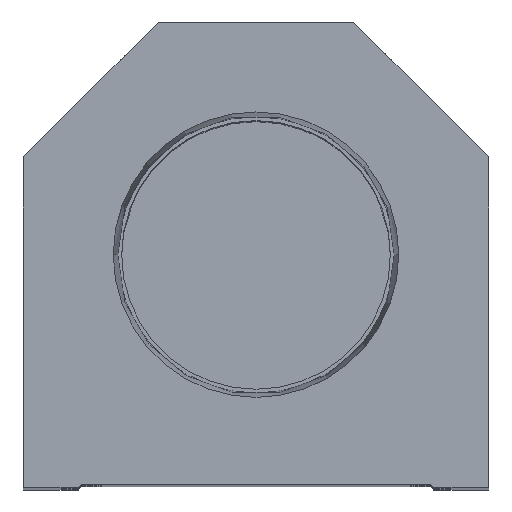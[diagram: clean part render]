
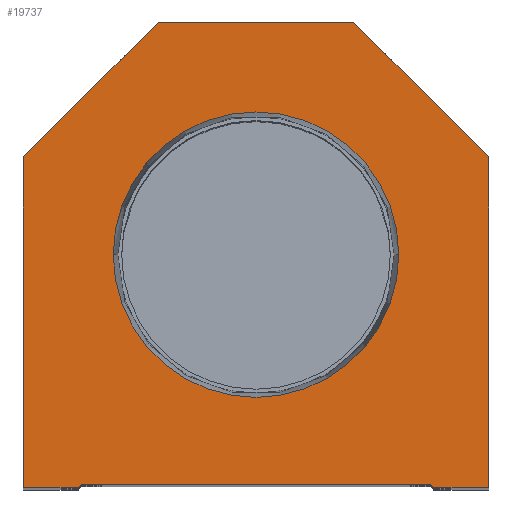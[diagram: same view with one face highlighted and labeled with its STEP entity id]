
A CAD part, top view. The second image highlights one B-rep face of the part: STEP entity #19737.
In plain terms, the highlighted planar face has unit normal (0, 0, 1).
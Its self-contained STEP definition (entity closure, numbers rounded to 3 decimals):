
#2 = CARTESIAN_POINT ( 'NONE',  ( -28.6, 0., 0. ) ) ;
#173 = CARTESIAN_POINT ( 'NONE',  ( -38.1, 54.1, 0. ) ) ;
#377 = ORIENTED_EDGE ( 'NONE', *, *, #2402, .T. ) ;
#391 = CARTESIAN_POINT ( 'NONE',  ( 38.1, 54.1, 0. ) ) ;
#859 = ORIENTED_EDGE ( 'NONE', *, *, #2828, .T. ) ;
#964 = VECTOR ( 'NONE', #3534, 1000. ) ;
#1227 = LINE ( 'NONE', #11452, #6743 ) ;
#1314 = VERTEX_POINT ( 'NONE', #2954 ) ;
#1325 = DIRECTION ( 'NONE',  ( 0., 0., 1. ) ) ;
#1512 = CARTESIAN_POINT ( 'NONE',  ( 29.1, 0., 0. ) ) ;
#1561 = DIRECTION ( 'NONE',  ( 0.707, -0.707, 0. ) ) ;
#1884 = EDGE_CURVE ( 'NONE', #5424, #13888, #1227, .T. ) ;
#2402 = EDGE_CURVE ( 'NONE', #13274, #14682, #12262, .T. ) ;
#2461 = VECTOR ( 'NONE', #9323, 1000. ) ;
#2487 = DIRECTION ( 'NONE',  ( 0., 0., 1. ) ) ;
#2627 = ORIENTED_EDGE ( 'NONE', *, *, #4616, .T. ) ;
#2790 = VECTOR ( 'NONE', #4538, 1000. ) ;
#2806 = VECTOR ( 'NONE', #13555, 1000. ) ;
#2828 = EDGE_CURVE ( 'NONE', #20513, #15929, #13967, .T. ) ;
#2847 = ORIENTED_EDGE ( 'NONE', *, *, #14186, .T. ) ;
#2883 = AXIS2_PLACEMENT_3D ( 'NONE', #18332, #1325, #16443 ) ;
#2954 = CARTESIAN_POINT ( 'NONE',  ( -16., 76.2, 0. ) ) ;
#3534 = DIRECTION ( 'NONE',  ( 0., 1., 0. ) ) ;
#3676 = VERTEX_POINT ( 'NONE', #17778 ) ;
#3790 = CARTESIAN_POINT ( 'NONE',  ( 16., 76.2, 0. ) ) ;
#4000 = EDGE_CURVE ( 'NONE', #14682, #5424, #8652, .T. ) ;
#4277 = DIRECTION ( 'NONE',  ( 1., 0., 0. ) ) ;
#4538 = DIRECTION ( 'NONE',  ( 1., 0., 0. ) ) ;
#4556 = FACE_BOUND ( 'NONE', #6364, .T. ) ;
#4616 = EDGE_CURVE ( 'NONE', #18141, #1314, #9535, .T. ) ;
#5424 = VERTEX_POINT ( 'NONE', #20327 ) ;
#5771 = CARTESIAN_POINT ( 'NONE',  ( 38.1, 0., 0. ) ) ;
#6158 = CARTESIAN_POINT ( 'NONE',  ( 0., 38.1, 0. ) ) ;
#6221 = CARTESIAN_POINT ( 'NONE',  ( 16., 76.2, 0. ) ) ;
#6364 = EDGE_LOOP ( 'NONE', ( #12261, #10067 ) ) ;
#6480 = ORIENTED_EDGE ( 'NONE', *, *, #20773, .T. ) ;
#6743 = VECTOR ( 'NONE', #16785, 1000. ) ;
#6913 = CARTESIAN_POINT ( 'NONE',  ( 38.1, 0., 0. ) ) ;
#6999 = LINE ( 'NONE', #16688, #2806 ) ;
#7085 = EDGE_CURVE ( 'NONE', #14729, #3676, #21720, .T. ) ;
#8236 = DIRECTION ( 'NONE',  ( 1., 0., 0. ) ) ;
#8652 = LINE ( 'NONE', #2, #15203 ) ;
#8736 = LINE ( 'NONE', #173, #15565 ) ;
#8837 = ORIENTED_EDGE ( 'NONE', *, *, #15230, .T. ) ;
#9167 = DIRECTION ( 'NONE',  ( -0.707, 0.707, 0. ) ) ;
#9277 = EDGE_CURVE ( 'NONE', #3676, #14729, #11912, .T. ) ;
#9323 = DIRECTION ( 'NONE',  ( -1., 0., 0. ) ) ;
#9535 = LINE ( 'NONE', #6221, #2461 ) ;
#9771 = FACE_OUTER_BOUND ( 'NONE', #10195, .T. ) ;
#10067 = ORIENTED_EDGE ( 'NONE', *, *, #9277, .F. ) ;
#10093 = CARTESIAN_POINT ( 'NONE',  ( -38.1, 54.1, 0. ) ) ;
#10182 = CARTESIAN_POINT ( 'NONE',  ( 23.374, 38.1, 0. ) ) ;
#10195 = EDGE_LOOP ( 'NONE', ( #19139, #15756, #8837, #6480, #19536, #859, #17933, #2627, #2847, #377 ) ) ;
#10532 = AXIS2_PLACEMENT_3D ( 'NONE', #6158, #14901, #21366 ) ;
#11152 = CARTESIAN_POINT ( 'NONE',  ( 38.1, 54.1, 0. ) ) ;
#11380 = EDGE_CURVE ( 'NONE', #15929, #18141, #12277, .T. ) ;
#11452 = CARTESIAN_POINT ( 'NONE',  ( -14.55, 14.55, 0. ) ) ;
#11648 = CARTESIAN_POINT ( 'NONE',  ( 14.55, 14.55, 0. ) ) ;
#11912 = CIRCLE ( 'NONE', #10532, 23.374 ) ;
#12123 = AXIS2_PLACEMENT_3D ( 'NONE', #14368, #2487, #4277 ) ;
#12261 = ORIENTED_EDGE ( 'NONE', *, *, #7085, .F. ) ;
#12262 = LINE ( 'NONE', #15394, #21661 ) ;
#12277 = LINE ( 'NONE', #391, #18797 ) ;
#13274 = VERTEX_POINT ( 'NONE', #10093 ) ;
#13292 = CARTESIAN_POINT ( 'NONE',  ( 28.6, 0., 0. ) ) ;
#13555 = DIRECTION ( 'NONE',  ( 1., 0., 0. ) ) ;
#13639 = DIRECTION ( 'NONE',  ( -0.707, -0.707, 0. ) ) ;
#13888 = VERTEX_POINT ( 'NONE', #18375 ) ;
#13967 = LINE ( 'NONE', #5771, #964 ) ;
#14186 = EDGE_CURVE ( 'NONE', #1314, #13274, #8736, .T. ) ;
#14368 = CARTESIAN_POINT ( 'NONE',  ( 0., 38.1, 0. ) ) ;
#14568 = EDGE_CURVE ( 'NONE', #18622, #20513, #19974, .T. ) ;
#14682 = VERTEX_POINT ( 'NONE', #17177 ) ;
#14729 = VERTEX_POINT ( 'NONE', #10182 ) ;
#14875 = PLANE ( 'NONE',  #2883 ) ;
#14901 = DIRECTION ( 'NONE',  ( 0., 0., 1. ) ) ;
#15203 = VECTOR ( 'NONE', #8236, 1000. ) ;
#15230 = EDGE_CURVE ( 'NONE', #13888, #16706, #6999, .T. ) ;
#15394 = CARTESIAN_POINT ( 'NONE',  ( -38.1, 0., 0. ) ) ;
#15565 = VECTOR ( 'NONE', #13639, 1000. ) ;
#15699 = VECTOR ( 'NONE', #1561, 1000. ) ;
#15756 = ORIENTED_EDGE ( 'NONE', *, *, #1884, .T. ) ;
#15929 = VERTEX_POINT ( 'NONE', #11152 ) ;
#16443 = DIRECTION ( 'NONE',  ( 1., 0., 0. ) ) ;
#16688 = CARTESIAN_POINT ( 'NONE',  ( -28.6, 0.5, 0. ) ) ;
#16706 = VERTEX_POINT ( 'NONE', #21780 ) ;
#16785 = DIRECTION ( 'NONE',  ( 0.707, 0.707, 0. ) ) ;
#17177 = CARTESIAN_POINT ( 'NONE',  ( -38.1, 0., 0. ) ) ;
#17778 = CARTESIAN_POINT ( 'NONE',  ( -23.374, 38.1, 0. ) ) ;
#17933 = ORIENTED_EDGE ( 'NONE', *, *, #11380, .T. ) ;
#18141 = VERTEX_POINT ( 'NONE', #3790 ) ;
#18332 = CARTESIAN_POINT ( 'NONE',  ( 0., 0., 0. ) ) ;
#18375 = CARTESIAN_POINT ( 'NONE',  ( -28.6, 0.5, 0. ) ) ;
#18622 = VERTEX_POINT ( 'NONE', #1512 ) ;
#18797 = VECTOR ( 'NONE', #9167, 1000. ) ;
#19139 = ORIENTED_EDGE ( 'NONE', *, *, #4000, .T. ) ;
#19536 = ORIENTED_EDGE ( 'NONE', *, *, #14568, .T. ) ;
#19737 = ADVANCED_FACE ( 'NONE', ( #4556, #9771 ), #14875, .T. ) ;
#19974 = LINE ( 'NONE', #13292, #2790 ) ;
#20327 = CARTESIAN_POINT ( 'NONE',  ( -29.1, 0., 0. ) ) ;
#20513 = VERTEX_POINT ( 'NONE', #6913 ) ;
#20614 = DIRECTION ( 'NONE',  ( 0., -1., 0. ) ) ;
#20773 = EDGE_CURVE ( 'NONE', #16706, #18622, #21782, .T. ) ;
#21366 = DIRECTION ( 'NONE',  ( 1., 0., 0. ) ) ;
#21661 = VECTOR ( 'NONE', #20614, 1000. ) ;
#21720 = CIRCLE ( 'NONE', #12123, 23.374 ) ;
#21780 = CARTESIAN_POINT ( 'NONE',  ( 28.6, 0.5, 0. ) ) ;
#21782 = LINE ( 'NONE', #11648, #15699 ) ;
